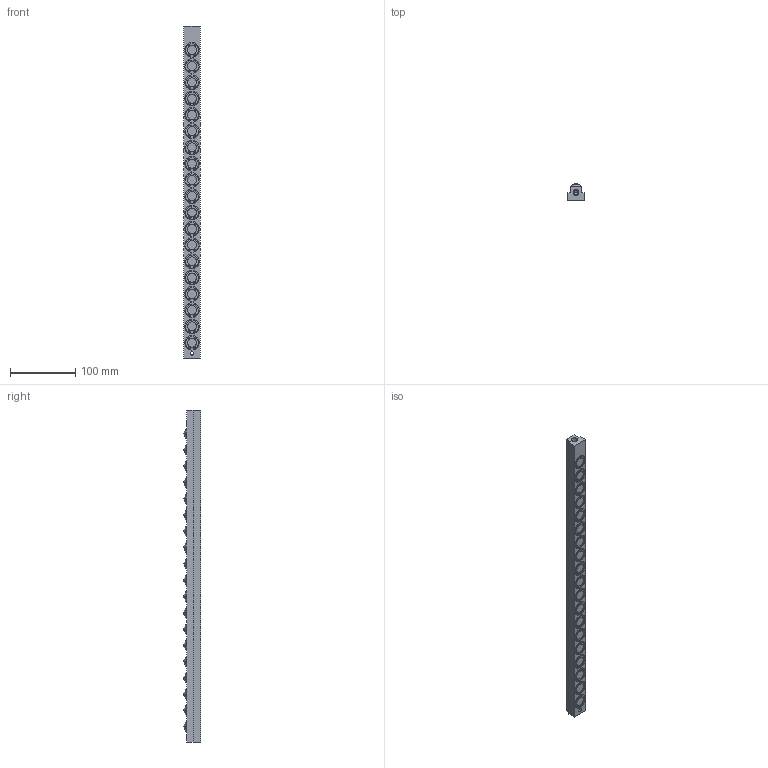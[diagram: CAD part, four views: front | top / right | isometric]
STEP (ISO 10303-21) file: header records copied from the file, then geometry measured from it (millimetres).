
FILE_DESCRIPTION (( 'STEP AP203' ), '1' );
FILE_NAME ('PVL13T-19.STEP', '2015-12-24T05:58:53', ( '' ), ( '' ), 'SwSTEP 2.0', 'SolidWorks 2013', '' );
FILE_SCHEMA (( 'CONFIG_CONTROL_DESIGN' ));
Length unit declared in the file: millimetre
Products named in the file (1): PVL13T-19
Bounding box: 25 x 26.26 x 510 mm (x, y, z)
Volume: 232940.9 mm3; surface area: 54753.1 mm2
Topology: 2 solids, 2 shells, 572 faces, 1365 edges, 913 vertices
Faces by surface type: cylinder 314, plane 174, torus 38, sphere 38, cone 8
Entity records: 17124 total; most frequent: DIRECTION 3371, CARTESIAN_POINT 2847, ORIENTED_EDGE 2722, AXIS2_PLACEMENT_3D 1437, EDGE_CURVE 1361, VERTEX_POINT 913, CIRCLE 864, EDGE_LOOP 694
